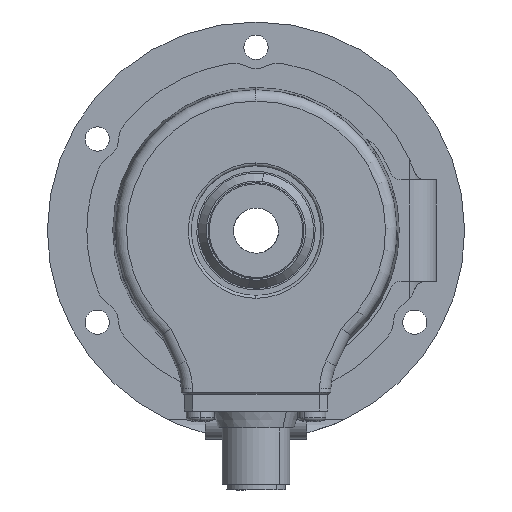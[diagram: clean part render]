
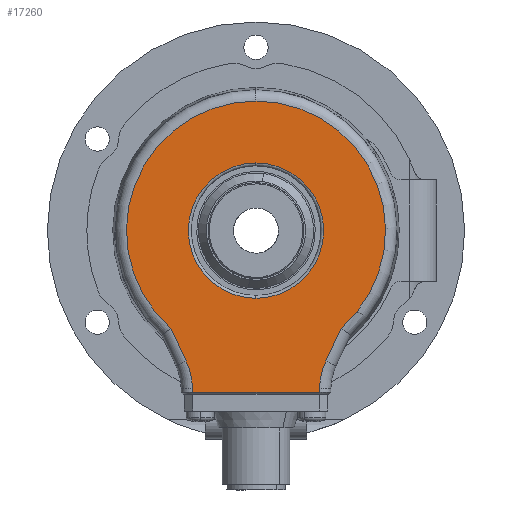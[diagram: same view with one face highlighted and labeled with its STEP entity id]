
A CAD part, left-side view. The second image highlights one B-rep face of the part: STEP entity #17260.
In plain terms, the highlighted planar face has unit normal (-1, 0, 0).
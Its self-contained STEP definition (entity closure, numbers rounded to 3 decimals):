
#372 = VERTEX_POINT ( 'NONE', #16016 ) ;
#374 = EDGE_CURVE ( 'NONE', #570, #372, #16015, .T. ) ;
#380 = EDGE_CURVE ( 'NONE', #372, #626, #16036, .T. ) ;
#564 = VERTEX_POINT ( 'NONE', #16697 ) ;
#570 = VERTEX_POINT ( 'NONE', #16689 ) ;
#572 = EDGE_CURVE ( 'NONE', #584, #17803, #16687, .T. ) ;
#584 = VERTEX_POINT ( 'NONE', #16745 ) ;
#586 = EDGE_CURVE ( 'NONE', #627, #584, #16743, .T. ) ;
#625 = EDGE_CURVE ( 'NONE', #626, #627, #16842, .T. ) ;
#626 = VERTEX_POINT ( 'NONE', #16891 ) ;
#627 = VERTEX_POINT ( 'NONE', #16890 ) ;
#639 = VERTEX_POINT ( 'NONE', #16908 ) ;
#641 = EDGE_CURVE ( 'NONE', #642, #639, #16907, .T. ) ;
#642 = VERTEX_POINT ( 'NONE', #16902 ) ;
#646 = EDGE_CURVE ( 'NONE', #564, #570, #16895, .T. ) ;
#3989 = CARTESIAN_POINT ( 'NONE',  ( -21., 11.255, -28.695 ) ) ;
#4090 = DIRECTION ( 'NONE',  ( 1., 0., 0. ) ) ;
#4091 = CARTESIAN_POINT ( 'NONE',  ( -21., 0., 0. ) ) ;
#4092 = AXIS2_PLACEMENT_3D ( 'NONE', #4091, #4090, #4146 ) ;
#4093 = PLANE ( 'NONE',  #4092 ) ;
#4108 = FACE_OUTER_BOUND ( 'NONE', #17205, .T. ) ;
#4109 = FACE_BOUND ( 'NONE', #17261, .T. ) ;
#4110 = DIRECTION ( 'NONE',  ( 0., 0., 1. ) ) ;
#4111 = DIRECTION ( 'NONE',  ( 1., 0., 0. ) ) ;
#4112 = CARTESIAN_POINT ( 'NONE',  ( -21., 0., 0. ) ) ;
#4113 = AXIS2_PLACEMENT_3D ( 'NONE', #4112, #4111, #4110 ) ;
#4114 = CIRCLE ( 'NONE', #4113, 12. ) ;
#4141 = DIRECTION ( 'NONE',  ( 0., -0.017, -1. ) ) ;
#4142 = VECTOR ( 'NONE', #4141, 1000. ) ;
#4143 = CARTESIAN_POINT ( 'NONE',  ( -21., 11.752, -0.205 ) ) ;
#4144 = LINE ( 'NONE', #4143, #4142 ) ;
#4146 = DIRECTION ( 'NONE',  ( 0., 0., 1. ) ) ;
#4320 = DIRECTION ( 'NONE',  ( 0., -0.017, 1. ) ) ;
#4321 = VECTOR ( 'NONE', #4320, 1000. ) ;
#4322 = CARTESIAN_POINT ( 'NONE',  ( -21., -11.752, -0.205 ) ) ;
#4323 = LINE ( 'NONE', #4322, #4321 ) ;
#4324 = DIRECTION ( 'NONE',  ( 0., -1., 0. ) ) ;
#4325 = VECTOR ( 'NONE', #4324, 1000. ) ;
#4326 = CARTESIAN_POINT ( 'NONE',  ( -21., -11.25, -28.695 ) ) ;
#4327 = LINE ( 'NONE', #4326, #4325 ) ;
#5754 = CARTESIAN_POINT ( 'NONE',  ( -21., 11.268, -27.974 ) ) ;
#5769 = CARTESIAN_POINT ( 'NONE',  ( -21., -11.255, -28.695 ) ) ;
#16010 = DIRECTION ( 'NONE',  ( 0., -0.423, 0.906 ) ) ;
#16011 = VECTOR ( 'NONE', #16010, 1000. ) ;
#16012 = CARTESIAN_POINT ( 'NONE',  ( -21., -14.953, -17.615 ) ) ;
#16015 = LINE ( 'NONE', #16012, #16011 ) ;
#16016 = CARTESIAN_POINT ( 'NONE',  ( -21., -15.091, -17.32 ) ) ;
#16028 = DIRECTION ( 'NONE',  ( 0., 0., 1. ) ) ;
#16029 = DIRECTION ( 'NONE',  ( -1., 0., 0. ) ) ;
#16030 = CARTESIAN_POINT ( 'NONE',  ( -21., 0., 0. ) ) ;
#16031 = AXIS2_PLACEMENT_3D ( 'NONE', #16030, #16029, #16028 ) ;
#16036 = CIRCLE ( 'NONE', #16031, 22.972 ) ;
#16683 = DIRECTION ( 'NONE',  ( 0., 0., 1. ) ) ;
#16684 = DIRECTION ( 'NONE',  ( 1., 0., 0. ) ) ;
#16685 = CARTESIAN_POINT ( 'NONE',  ( -21., 23.266, -28.183 ) ) ;
#16686 = AXIS2_PLACEMENT_3D ( 'NONE', #16685, #16684, #16683 ) ;
#16687 = CIRCLE ( 'NONE', #16686, 12. ) ;
#16689 = CARTESIAN_POINT ( 'NONE',  ( -21., -12.39, -23.112 ) ) ;
#16697 = CARTESIAN_POINT ( 'NONE',  ( -21., -11.268, -27.974 ) ) ;
#16740 = DIRECTION ( 'NONE',  ( 0., -0.423, -0.906 ) ) ;
#16741 = VECTOR ( 'NONE', #16740, 1000. ) ;
#16742 = CARTESIAN_POINT ( 'NONE',  ( -21., 12.39, -23.112 ) ) ;
#16743 = LINE ( 'NONE', #16742, #16741 ) ;
#16745 = CARTESIAN_POINT ( 'NONE',  ( -21., 12.39, -23.112 ) ) ;
#16841 = AXIS2_PLACEMENT_3D ( 'NONE', #16894, #16893, #16892 ) ;
#16842 = CIRCLE ( 'NONE', #16841, 22.972 ) ;
#16890 = CARTESIAN_POINT ( 'NONE',  ( -21., 15.091, -17.32 ) ) ;
#16891 = CARTESIAN_POINT ( 'NONE',  ( -21., 0., 22.972 ) ) ;
#16892 = DIRECTION ( 'NONE',  ( 0., 0., 1. ) ) ;
#16893 = DIRECTION ( 'NONE',  ( -1., 0., 0. ) ) ;
#16894 = CARTESIAN_POINT ( 'NONE',  ( -21., 0., 0. ) ) ;
#16895 = CIRCLE ( 'NONE', #16952, 12. ) ;
#16901 = CARTESIAN_POINT ( 'NONE',  ( -21., -23.266, -28.183 ) ) ;
#16902 = CARTESIAN_POINT ( 'NONE',  ( -21., 0., 12. ) ) ;
#16903 = DIRECTION ( 'NONE',  ( 0., 0., 1. ) ) ;
#16904 = DIRECTION ( 'NONE',  ( 1., 0., 0. ) ) ;
#16905 = CARTESIAN_POINT ( 'NONE',  ( -21., 0., 0. ) ) ;
#16906 = AXIS2_PLACEMENT_3D ( 'NONE', #16905, #16904, #16903 ) ;
#16907 = CIRCLE ( 'NONE', #16906, 12. ) ;
#16908 = CARTESIAN_POINT ( 'NONE',  ( -21., 0., -12. ) ) ;
#16950 = DIRECTION ( 'NONE',  ( 0., 0., 1. ) ) ;
#16951 = DIRECTION ( 'NONE',  ( 1., 0., 0. ) ) ;
#16952 = AXIS2_PLACEMENT_3D ( 'NONE', #16901, #16951, #16950 ) ;
#17205 = EDGE_LOOP ( 'NONE', ( #17534, #17535, #17317, #17319, #17320, #17321, #17528, #17529, #17530 ) ) ;
#17237 = VERTEX_POINT ( 'NONE', #3989 ) ;
#17259 = EDGE_CURVE ( 'NONE', #639, #642, #4114, .T. ) ;
#17260 = ADVANCED_FACE ( 'NONE', ( #4109, #4108 ), #4093, .F. ) ;
#17261 = EDGE_LOOP ( 'NONE', ( #17262, #17263 ) ) ;
#17262 = ORIENTED_EDGE ( 'NONE', *, *, #641, .T. ) ;
#17263 = ORIENTED_EDGE ( 'NONE', *, *, #17259, .T. ) ;
#17264 = EDGE_CURVE ( 'NONE', #17803, #17237, #4144, .T. ) ;
#17315 = EDGE_CURVE ( 'NONE', #17237, #17796, #4327, .T. ) ;
#17317 = ORIENTED_EDGE ( 'NONE', *, *, #17318, .T. ) ;
#17318 = EDGE_CURVE ( 'NONE', #17796, #564, #4323, .T. ) ;
#17319 = ORIENTED_EDGE ( 'NONE', *, *, #646, .T. ) ;
#17320 = ORIENTED_EDGE ( 'NONE', *, *, #374, .T. ) ;
#17321 = ORIENTED_EDGE ( 'NONE', *, *, #380, .T. ) ;
#17528 = ORIENTED_EDGE ( 'NONE', *, *, #625, .T. ) ;
#17529 = ORIENTED_EDGE ( 'NONE', *, *, #586, .T. ) ;
#17530 = ORIENTED_EDGE ( 'NONE', *, *, #572, .T. ) ;
#17534 = ORIENTED_EDGE ( 'NONE', *, *, #17264, .T. ) ;
#17535 = ORIENTED_EDGE ( 'NONE', *, *, #17315, .T. ) ;
#17796 = VERTEX_POINT ( 'NONE', #5769 ) ;
#17803 = VERTEX_POINT ( 'NONE', #5754 ) ;
